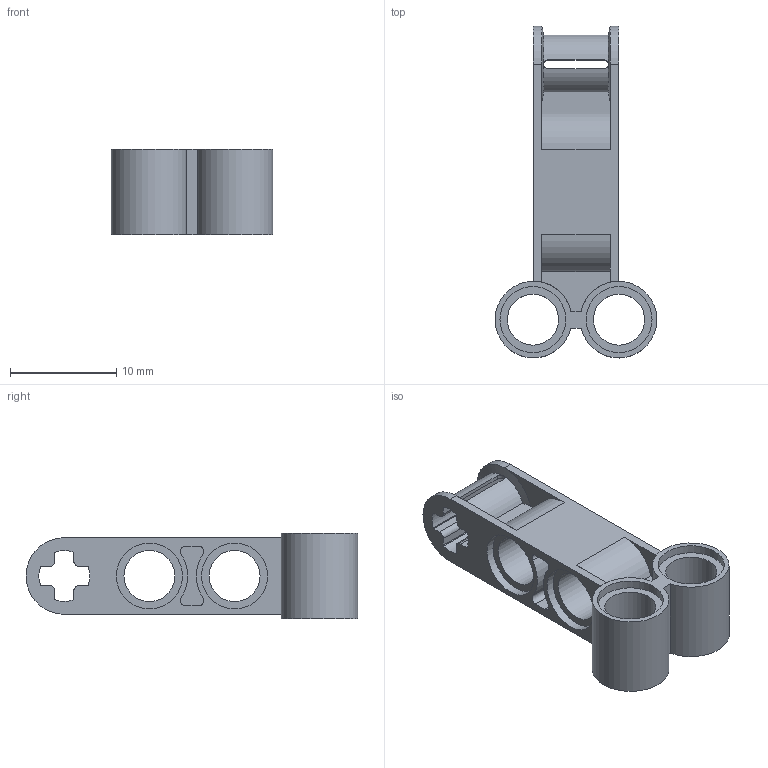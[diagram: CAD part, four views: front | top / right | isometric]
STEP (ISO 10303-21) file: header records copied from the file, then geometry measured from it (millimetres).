
FILE_DESCRIPTION(/* description */ ('Unknown'),/* implementation_level */ '2;1');
FILE_NAME(/* name */ 'ClGray_4652234_AVV',/* time_stamp */ '2025-07-21T23:58:14+02:00',/* author */ ('Unknown'),/* organization */ ('Unknown'),/* preprocessor_version */ 'ST-DEVELOPER v19.4',/* originating_system */ 'Solid Edge',/* authorisation */ 'Unknown');
FILE_SCHEMA (('AUTOMOTIVE_DESIGN {1 0 10303 214 3 1 1}'));
Length unit declared in the file: millimetre
Products named in the file (1): ClGray_4652234_AVV
Bounding box: 15.2 x 31.2 x 8 mm (x, y, z)
Volume: 937.3 mm3; surface area: 1918.8 mm2
Topology: 1 solids, 1 shells, 106 faces, 278 edges, 182 vertices
Faces by surface type: cylinder 57, plane 47, cone 2
Full cylindrical faces by diameter (mm): 4.8 x4, 6.2 x8
Entity records: 3316 total; most frequent: CARTESIAN_POINT 607, DIRECTION 580, ORIENTED_EDGE 532, EDGE_CURVE 266, AXIS2_PLACEMENT_3D 223, VERTEX_POINT 182, EDGE_LOOP 140, FACE_BOUND 140
